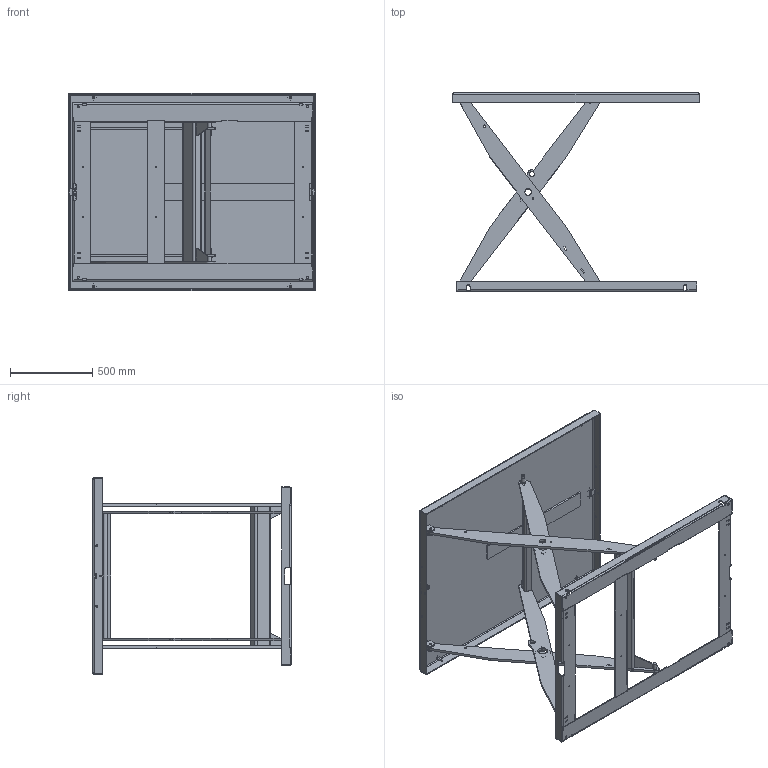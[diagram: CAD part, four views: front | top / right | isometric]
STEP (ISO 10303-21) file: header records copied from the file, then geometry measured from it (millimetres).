
FILE_DESCRIPTION(/* description */ (''),/* implementation_level */ '2;1');
FILE_NAME(/* name */ 'C:\Autodesk_VaultWork\Ritningar\Exporterade modeller\CB 1200 - (524828)\524828_Raised.stp',/* time_stamp */ '2019-05-21T09:13:46+02:00',/* author */ ('johso'),/* organization */ (''),/* preprocessor_version */ 'ST-DEVELOPER v16.5',/* originating_system */ 'Autodesk Inventor 2017',/* authorisation */ '');
FILE_SCHEMA (('AUTOMOTIVE_DESIGN { 1 0 10303 214 3 1 1 }'));
Length unit declared in the file: millimetre
Products named in the file (22): 524828; 607763; 607754; 607745; 607673; 607753; 607746; 82159 - 850; 607666; 607786; 607679; 607738; 607736; 607737; 607739; 607735; 607734; 22214-7; 85955; 42394; 80131; 45339
Assembly tree (40 placements, depth 4):
  524828
    607763
      607754
        607745  x2
        607666  x2
        607673
      607753
        607746  x2
        82159 - 850
        607666  x2
        607786  x2
      607679
    607738
      607736  x2
      607737  x2
      607739
      45339  x4
    607735
      607734
      22214-7
      85955
      80131  x4
      45339  x4
      42394  x2
Bounding box: 1500 x 1210 x 1200 mm (x, y, z)
Volume: 28081680 mm3; surface area: 8243163.6 mm2
Topology: 34 solids, 34 shells, 1150 faces, 2993 edges, 1940 vertices
Faces by surface type: plane 739, cylinder 337, cone 58, torus 8, bspline 8
Full cylindrical faces by diameter (mm): 6.6 x4, 6.8 x6, 7.4 x2, 8 x4, 10.5 x6, 11.63 x4, 13 x4, 13.835 x1, 14.2 x2, 14.5 x8, 18.5 x1, 19 x1, 22 x8, 30 x4, 30.2 x2
Entity records: 19484 total; most frequent: CARTESIAN_POINT 3878, ORIENTED_EDGE 3082, DIRECTION 3082, EDGE_CURVE 1541, LINE 1180, VECTOR 1180, VERTEX_POINT 1021, AXIS2_PLACEMENT_3D 951
